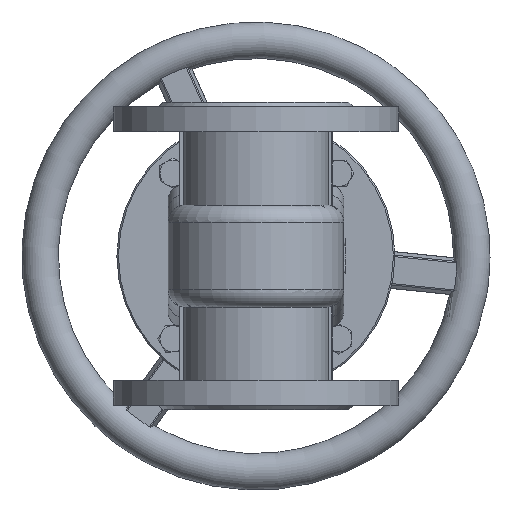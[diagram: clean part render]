
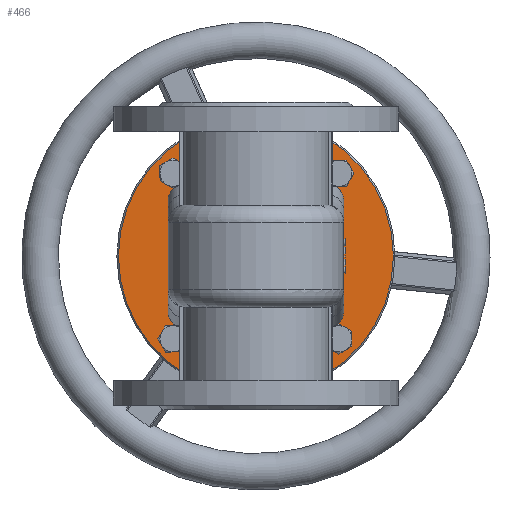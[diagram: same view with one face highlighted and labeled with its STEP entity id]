
A CAD part, front view. The second image highlights one B-rep face of the part: STEP entity #466.
In plain terms, the highlighted planar face has unit normal (0, -1, 0).
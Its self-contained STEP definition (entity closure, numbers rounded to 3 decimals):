
#466=ADVANCED_FACE('',(#5633,#5635),#5637,.F.);
#5633=FACE_BOUND('',#5634,.T.);
#5634=EDGE_LOOP('',(#12534));
#5635=FACE_BOUND('',#5636,.T.);
#5636=EDGE_LOOP('',(#12535,#12536,#12537,#12538,#12539,#12540,#12541,#12542,#12543,
#12544,#12545,#12546,#12547,#12548,#12549,#12550));
#5637=PLANE('',#5638);
#5638=AXIS2_PLACEMENT_3D('',#5639,#5640,#5641);
#5639=CARTESIAN_POINT('',(0.,130.,0.));
#5640=DIRECTION('',(0.,1.,0.));
#5641=DIRECTION('',(0.,0.,1.));
#12534=ORIENTED_EDGE('',*,*,#15745,.F.);
#12535=ORIENTED_EDGE('',*,*,#15742,.F.);
#12536=ORIENTED_EDGE('',*,*,#15746,.F.);
#12537=ORIENTED_EDGE('',*,*,#15747,.F.);
#12538=ORIENTED_EDGE('',*,*,#15748,.F.);
#12539=ORIENTED_EDGE('',*,*,#15749,.F.);
#12540=ORIENTED_EDGE('',*,*,#15722,.F.);
#12541=ORIENTED_EDGE('',*,*,#15750,.T.);
#12542=ORIENTED_EDGE('',*,*,#15751,.F.);
#12543=ORIENTED_EDGE('',*,*,#15752,.T.);
#12544=ORIENTED_EDGE('',*,*,#15753,.T.);
#12545=ORIENTED_EDGE('',*,*,#15754,.T.);
#12546=ORIENTED_EDGE('',*,*,#15755,.F.);
#12547=ORIENTED_EDGE('',*,*,#15756,.T.);
#12548=ORIENTED_EDGE('',*,*,#15635,.F.);
#12549=ORIENTED_EDGE('',*,*,#15739,.F.);
#12550=ORIENTED_EDGE('',*,*,#15757,.F.);
#15635=EDGE_CURVE('',#17349,#17352,#17353,.T.);
#15722=EDGE_CURVE('',#17507,#17509,#17510,.T.);
#15739=EDGE_CURVE('',#17540,#17349,#17542,.T.);
#15742=EDGE_CURVE('',#17545,#17547,#17548,.T.);
#15745=EDGE_CURVE('',#17552,#17552,#17553,.T.);
#15746=EDGE_CURVE('',#17554,#17545,#17555,.T.);
#15747=EDGE_CURVE('',#17556,#17554,#17557,.T.);
#15748=EDGE_CURVE('',#17558,#17556,#17559,.F.);
#15749=EDGE_CURVE('',#17509,#17558,#17560,.T.);
#15750=EDGE_CURVE('',#17507,#17561,#17562,.T.);
#15751=EDGE_CURVE('',#17563,#17561,#17564,.F.);
#15752=EDGE_CURVE('',#17563,#17565,#17566,.T.);
#15753=EDGE_CURVE('',#17565,#17567,#17568,.T.);
#15754=EDGE_CURVE('',#17567,#17569,#17570,.T.);
#15755=EDGE_CURVE('',#17571,#17569,#17572,.F.);
#15756=EDGE_CURVE('',#17571,#17352,#17573,.T.);
#15757=EDGE_CURVE('',#17547,#17540,#17574,.F.);
#17349=VERTEX_POINT('',#20561);
#17352=VERTEX_POINT('',#20566);
#17353=LINE('',#20567,#20568);
#17507=VERTEX_POINT('',#21673);
#17509=VERTEX_POINT('',#21677);
#17510=LINE('',#21678,#21679);
#17540=VERTEX_POINT('',#21873);
#17542=(BOUNDED_CURVE()B_SPLINE_CURVE(3,
(#21893,#21894,#21895,#21896),
.UNSPECIFIED.,.F.,.F.)B_SPLINE_CURVE_WITH_KNOTS((4,4),
(0.,1.),
.UNSPECIFIED.)CURVE()GEOMETRIC_REPRESENTATION_ITEM()RATIONAL_B_SPLINE_CURVE((1.,
0.926,0.926,1.))REPRESENTATION_ITEM(''));
#17545=VERTEX_POINT('',#21902);
#17547=VERTEX_POINT('',#21906);
#17548=(BOUNDED_CURVE()B_SPLINE_CURVE(3,
(#21907,#21908,#21909,#21910),
.UNSPECIFIED.,.F.,.F.)B_SPLINE_CURVE_WITH_KNOTS((4,4),
(0.,1.),
.UNSPECIFIED.)CURVE()GEOMETRIC_REPRESENTATION_ITEM()RATIONAL_B_SPLINE_CURVE((1.,
0.995,0.995,1.))REPRESENTATION_ITEM(''));
#17552=VERTEX_POINT('',#21934);
#17553=CIRCLE('',#21935,94.);
#17554=VERTEX_POINT('',#21939);
#17555=LINE('',#21940,#21941);
#17556=VERTEX_POINT('',#21943);
#17557=(BOUNDED_CURVE()B_SPLINE_CURVE(3,
(#21944,#21945,#21946,#21947),
.UNSPECIFIED.,.F.,.F.)B_SPLINE_CURVE_WITH_KNOTS((4,4),
(0.,1.),
.UNSPECIFIED.)CURVE()GEOMETRIC_REPRESENTATION_ITEM()RATIONAL_B_SPLINE_CURVE((1.,
0.995,0.995,1.))REPRESENTATION_ITEM(''));
#17558=VERTEX_POINT('',#21948);
#17559=CIRCLE('',#21949,9.);
#17560=(BOUNDED_CURVE()B_SPLINE_CURVE(3,
(#21953,#21954,#21955,#21956),
.UNSPECIFIED.,.F.,.F.)B_SPLINE_CURVE_WITH_KNOTS((4,4),
(0.,1.),
.UNSPECIFIED.)CURVE()GEOMETRIC_REPRESENTATION_ITEM()RATIONAL_B_SPLINE_CURVE((1.,
0.926,0.926,1.))REPRESENTATION_ITEM(''));
#17561=VERTEX_POINT('',#21957);
#17562=(BOUNDED_CURVE()B_SPLINE_CURVE(3,
(#21958,#21959,#21960,#21961),
.UNSPECIFIED.,.F.,.F.)B_SPLINE_CURVE_WITH_KNOTS((4,4),
(0.,1.),
.UNSPECIFIED.)CURVE()GEOMETRIC_REPRESENTATION_ITEM()RATIONAL_B_SPLINE_CURVE((1.,
0.926,0.926,1.))REPRESENTATION_ITEM(''));
#17563=VERTEX_POINT('',#21962);
#17564=CIRCLE('',#21963,9.);
#17565=VERTEX_POINT('',#21967);
#17566=(BOUNDED_CURVE()B_SPLINE_CURVE(3,
(#21968,#21969,#21970,#21971),
.UNSPECIFIED.,.F.,.F.)B_SPLINE_CURVE_WITH_KNOTS((4,4),
(0.,1.),
.UNSPECIFIED.)CURVE()GEOMETRIC_REPRESENTATION_ITEM()RATIONAL_B_SPLINE_CURVE((1.,
0.995,0.995,1.))REPRESENTATION_ITEM(''));
#17567=VERTEX_POINT('',#21972);
#17568=LINE('',#21973,#21974);
#17569=VERTEX_POINT('',#21976);
#17570=(BOUNDED_CURVE()B_SPLINE_CURVE(3,
(#21977,#21978,#21979,#21980),
.UNSPECIFIED.,.F.,.F.)B_SPLINE_CURVE_WITH_KNOTS((4,4),
(0.,1.),
.UNSPECIFIED.)CURVE()GEOMETRIC_REPRESENTATION_ITEM()RATIONAL_B_SPLINE_CURVE((1.,
0.995,0.995,1.))REPRESENTATION_ITEM(''));
#17571=VERTEX_POINT('',#21981);
#17572=CIRCLE('',#21982,9.);
#17573=(BOUNDED_CURVE()B_SPLINE_CURVE(3,
(#21986,#21987,#21988,#21989),
.UNSPECIFIED.,.F.,.F.)B_SPLINE_CURVE_WITH_KNOTS((4,4),
(0.,1.),
.UNSPECIFIED.)CURVE()GEOMETRIC_REPRESENTATION_ITEM()RATIONAL_B_SPLINE_CURVE((1.,
0.926,0.926,1.))REPRESENTATION_ITEM(''));
#17574=CIRCLE('',#21990,9.);
#20561=CARTESIAN_POINT('',(60.,130.,-37.631));
#20566=CARTESIAN_POINT('',(60.,130.,37.631));
#20567=CARTESIAN_POINT('',(60.,130.,-37.631));
#20568=VECTOR('',#20569,1.);
#20569=DIRECTION('',(0.,0.,1.));
#21673=CARTESIAN_POINT('',(-60.,130.,37.631));
#21677=CARTESIAN_POINT('',(-60.,130.,-37.631));
#21678=CARTESIAN_POINT('',(-60.,130.,37.631));
#21679=VECTOR('',#21680,1.);
#21680=DIRECTION('',(0.,0.,-1.));
#21873=CARTESIAN_POINT('',(54.948,130.,-47.716));
#21893=CARTESIAN_POINT('',(54.948,130.,-47.716));
#21894=CARTESIAN_POINT('',(58.181,130.,-45.349));
#21895=CARTESIAN_POINT('',(60.,130.,-41.718));
#21896=CARTESIAN_POINT('',(60.,130.,-37.631));
#21902=CARTESIAN_POINT('',(48.,130.,-50.));
#21906=CARTESIAN_POINT('',(50.803,130.,-49.658));
#21907=CARTESIAN_POINT('',(48.,130.,-50.));
#21908=CARTESIAN_POINT('',(48.945,130.,-50.));
#21909=CARTESIAN_POINT('',(49.884,130.,-49.885));
#21910=CARTESIAN_POINT('',(50.803,130.,-49.658));
#21934=CARTESIAN_POINT('',(94.,130.,0.));
#21935=AXIS2_PLACEMENT_3D('',#21936,#21937,#21938);
#21936=CARTESIAN_POINT('',(0.,130.,0.));
#21937=DIRECTION('',(0.,1.,0.));
#21938=DIRECTION('',(1.,0.,0.));
#21939=CARTESIAN_POINT('',(-48.,130.,-50.));
#21940=CARTESIAN_POINT('',(-48.,130.,-50.));
#21941=VECTOR('',#21942,1.);
#21942=DIRECTION('',(1.,0.,0.));
#21943=CARTESIAN_POINT('',(-50.803,130.,-49.658));
#21944=CARTESIAN_POINT('',(-50.803,130.,-49.658));
#21945=CARTESIAN_POINT('',(-49.884,130.,-49.885));
#21946=CARTESIAN_POINT('',(-48.945,130.,-50.));
#21947=CARTESIAN_POINT('',(-48.,130.,-50.));
#21948=CARTESIAN_POINT('',(-54.948,130.,-47.716));
#21949=AXIS2_PLACEMENT_3D('',#21950,#21951,#21952);
#21950=CARTESIAN_POINT('',(-56.569,130.,-56.569));
#21951=DIRECTION('',(0.,1.,0.));
#21952=DIRECTION('',(0.641,0.,0.768));
#21953=CARTESIAN_POINT('',(-60.,130.,-37.631));
#21954=CARTESIAN_POINT('',(-60.,130.,-41.718));
#21955=CARTESIAN_POINT('',(-58.181,130.,-45.349));
#21956=CARTESIAN_POINT('',(-54.948,130.,-47.716));
#21957=CARTESIAN_POINT('',(-54.948,130.,47.716));
#21958=CARTESIAN_POINT('',(-60.,130.,37.631));
#21959=CARTESIAN_POINT('',(-60.,130.,41.718));
#21960=CARTESIAN_POINT('',(-58.181,130.,45.349));
#21961=CARTESIAN_POINT('',(-54.948,130.,47.716));
#21962=CARTESIAN_POINT('',(-50.803,130.,49.658));
#21963=AXIS2_PLACEMENT_3D('',#21964,#21965,#21966);
#21964=CARTESIAN_POINT('',(-56.569,130.,56.569));
#21965=DIRECTION('',(0.,1.,0.));
#21966=DIRECTION('',(0.18,0.,-0.984));
#21967=CARTESIAN_POINT('',(-48.,130.,50.));
#21968=CARTESIAN_POINT('',(-50.803,130.,49.658));
#21969=CARTESIAN_POINT('',(-49.884,130.,49.885));
#21970=CARTESIAN_POINT('',(-48.945,130.,50.));
#21971=CARTESIAN_POINT('',(-48.,130.,50.));
#21972=CARTESIAN_POINT('',(48.,130.,50.));
#21973=CARTESIAN_POINT('',(-48.,130.,50.));
#21974=VECTOR('',#21975,1.);
#21975=DIRECTION('',(1.,0.,0.));
#21976=CARTESIAN_POINT('',(50.803,130.,49.658));
#21977=CARTESIAN_POINT('',(48.,130.,50.));
#21978=CARTESIAN_POINT('',(48.945,130.,50.));
#21979=CARTESIAN_POINT('',(49.884,130.,49.885));
#21980=CARTESIAN_POINT('',(50.803,130.,49.658));
#21981=CARTESIAN_POINT('',(54.948,130.,47.716));
#21982=AXIS2_PLACEMENT_3D('',#21983,#21984,#21985);
#21983=CARTESIAN_POINT('',(56.569,130.,56.569));
#21984=DIRECTION('',(0.,1.,0.));
#21985=DIRECTION('',(-0.641,0.,-0.768));
#21986=CARTESIAN_POINT('',(54.948,130.,47.716));
#21987=CARTESIAN_POINT('',(58.181,130.,45.349));
#21988=CARTESIAN_POINT('',(60.,130.,41.718));
#21989=CARTESIAN_POINT('',(60.,130.,37.631));
#21990=AXIS2_PLACEMENT_3D('',#21991,#21992,#21993);
#21991=CARTESIAN_POINT('',(56.569,130.,-56.569));
#21992=DIRECTION('',(0.,1.,0.));
#21993=DIRECTION('',(-0.18,0.,0.984));
